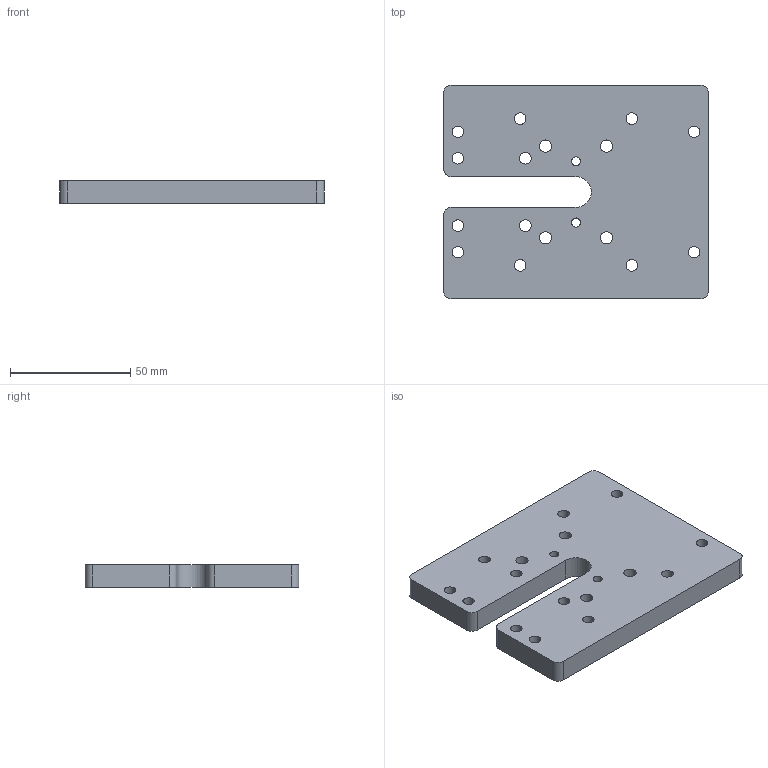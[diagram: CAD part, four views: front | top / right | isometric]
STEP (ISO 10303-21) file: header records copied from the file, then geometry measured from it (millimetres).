
FILE_DESCRIPTION (( 'STEP AP203' ), '1' );
FILE_NAME ('AFSB-501-M-GTR.STEP', '2018-08-16T16:20:47', ( 'admin' ), ( '' ), 'SwSTEP 2.0', 'SolidWorks 2018', '' );
FILE_SCHEMA (( 'CONFIG_CONTROL_DESIGN' ));
Length unit declared in the file: inch
Products named in the file (1): AFSB-501-M-GTR
Bounding box: 109.98 x 88.9 x 9.53 mm (x, y, z)
Volume: 80395.3 mm3; surface area: 25453.8 mm2
Topology: 1 solids, 1 shells, 88 faces, 222 edges, 148 vertices
Faces by surface type: cylinder 67, plane 21
Entity records: 2871 total; most frequent: DIRECTION 534, CARTESIAN_POINT 459, ORIENTED_EDGE 444, AXIS2_PLACEMENT_3D 223, EDGE_CURVE 222, VERTEX_POINT 148, EDGE_LOOP 136, CIRCLE 134
